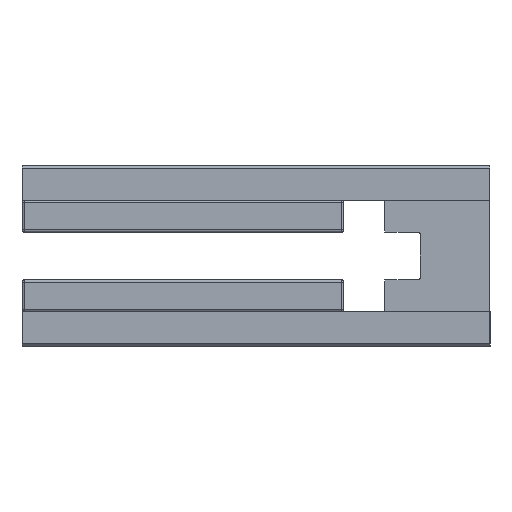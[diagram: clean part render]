
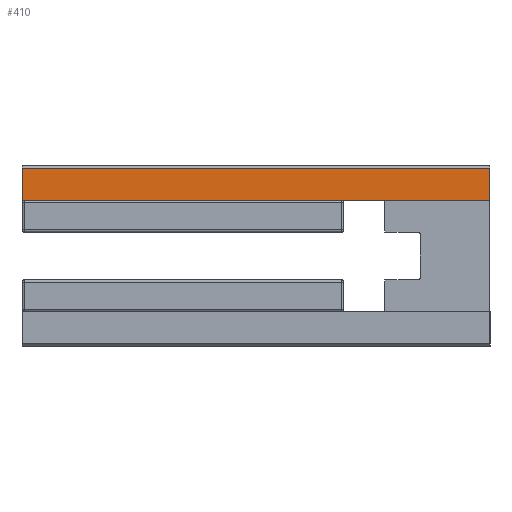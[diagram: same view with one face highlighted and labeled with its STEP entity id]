
A CAD part, front view. The second image highlights one B-rep face of the part: STEP entity #410.
In plain terms, the highlighted planar face has unit normal (0, -1, 0).
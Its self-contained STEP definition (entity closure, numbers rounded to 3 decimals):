
#410 = ADVANCED_FACE( '', ( #792 ), #793, .F. );
#792 = FACE_OUTER_BOUND( '', #1355, .T. );
#793 = PLANE( '', #1356 );
#1355 = EDGE_LOOP( '', ( #1924, #1925, #1926, #1927 ) );
#1356 = AXIS2_PLACEMENT_3D( '', #1928, #1929, #1930 );
#1924 = ORIENTED_EDGE( '', *, *, #3226, .T. );
#1925 = ORIENTED_EDGE( '', *, *, #3227, .T. );
#1926 = ORIENTED_EDGE( '', *, *, #3228, .F. );
#1927 = ORIENTED_EDGE( '', *, *, #3229, .T. );
#1928 = CARTESIAN_POINT( '', ( 80., 19.04, -4. ) );
#1929 = DIRECTION( '', ( 0., 1., 0. ) );
#1930 = DIRECTION( '', ( 0., 0., 1. ) );
#3226 = EDGE_CURVE( '', #3896, #3897, #3898, .T. );
#3227 = EDGE_CURVE( '', #3897, #3899, #3900, .T. );
#3228 = EDGE_CURVE( '', #3901, #3899, #3902, .T. );
#3229 = EDGE_CURVE( '', #3901, #3896, #3903, .T. );
#3896 = VERTEX_POINT( '', #4689 );
#3897 = VERTEX_POINT( '', #4690 );
#3898 = LINE( '', #4691, #4692 );
#3899 = VERTEX_POINT( '', #4693 );
#3900 = LINE( '', #4694, #4695 );
#3901 = VERTEX_POINT( '', #4696 );
#3902 = LINE( '', #4697, #4698 );
#3903 = LINE( '', #4699, #4700 );
#4689 = CARTESIAN_POINT( '', ( 80., 19.04, 0. ) );
#4690 = CARTESIAN_POINT( '', ( 80., 19.04, 5.5 ) );
#4691 = CARTESIAN_POINT( '', ( 80., 19.04, -4. ) );
#4692 = VECTOR( '', #6715, 1000. );
#4693 = CARTESIAN_POINT( '', ( 0., 19.04, 5.5 ) );
#4694 = CARTESIAN_POINT( '', ( 0., 19.04, 5.5 ) );
#4695 = VECTOR( '', #6716, 1000. );
#4696 = CARTESIAN_POINT( '', ( 0., 19.04, 0. ) );
#4697 = CARTESIAN_POINT( '', ( 0., 19.04, -4. ) );
#4698 = VECTOR( '', #6717, 1000. );
#4699 = CARTESIAN_POINT( '', ( 0., 19.04, 0. ) );
#4700 = VECTOR( '', #6718, 1000. );
#6715 = DIRECTION( '', ( 0., 0., 1. ) );
#6716 = DIRECTION( '', ( -1., 0., 0. ) );
#6717 = DIRECTION( '', ( 0., 0., 1. ) );
#6718 = DIRECTION( '', ( 1., 0., 0. ) );
